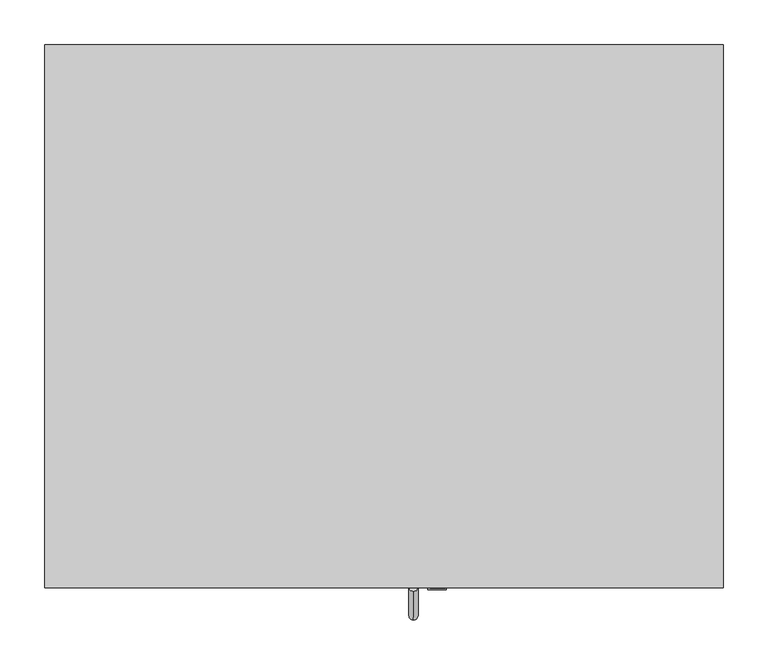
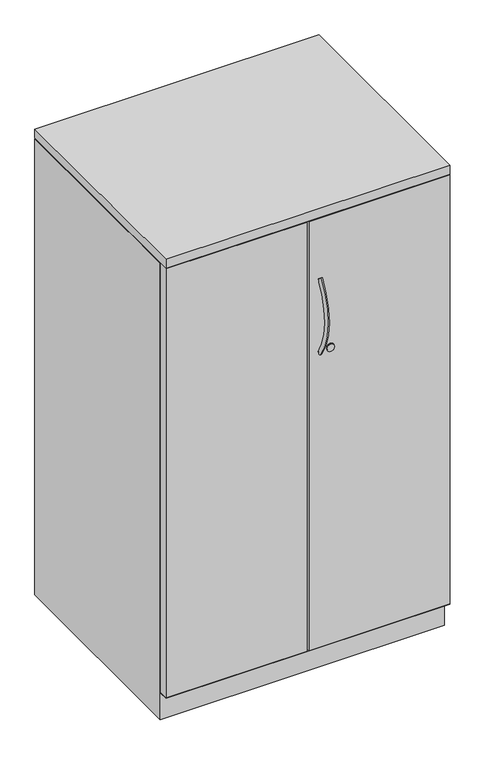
"""IFC4 building model written with IfcOpenShell, lengths in millimetres: furniture geometry, Steelcase - Universal Storage - Cabinet - Storage - 40H-52H - Proud Steel : 52H x 23 1/8D x 30W."""

from ifc_helpers import new_model, si_unit, point, frame, frame_2d, origin, place, context, project, spatial, polyline, circle_curve, ellipse_curve, trimmed, segment, composite_curve, outline, extrude, faceted_brep, source, transform, mapped, element, save
from ifc_brep_helpers import plane_surface, revolved_surface, advanced_brep


def furniture_725afa4a(model_context):
    return source(origin(), model_context, "Body", "SolidModel", [
        extrude(outline(polyline([(762.0, 0.0), (762.0, -609.6), (0.0, -609.6), (0.0, 0.0), (762.0, 0.0)])), frame((0.0, 0.0, 1295.4), z_axis=(0.0, 0.0, 1.0), x_axis=(1.0, 0.0, 0.0)), (0.0, 0.0, 1.0), 25.4),
        extrude(outline(polyline([(0.0, -609.6), (0.0, -584.2008418), (378.46, -584.2008418), (378.46, -609.6), (0.0, -609.6)])), frame((0.0, 0.0, 77.724), z_axis=(0.0, 0.0, 1.0), x_axis=(1.0, 0.0, 0.0)), (0.0, 0.0, 1.0), 1216.152),
        extrude(outline(polyline([(762.0, -584.2008418), (762.0, -609.6), (383.54, -609.6), (383.54, -584.2008418), (762.0, -584.2008418)])), frame((0.0, 0.0, 77.724), z_axis=(0.0, 0.0, 1.0), x_axis=(1.0, 0.0, 0.0)), (0.0, 0.0, 1.0), 1216.152),
        extrude(outline(composite_curve([segment(trimmed(circle_curve(frame_2d((917.702, 440.5418131)), 10.16), [point((917.702, 450.7018131))], [point((917.702, 430.3818131))], False, "CARTESIAN"), True, "CONTINUOUS"), segment(trimmed(circle_curve(frame_2d((917.702, 440.5418131)), 10.16), [point((917.702, 430.3818131))], [point((917.702, 450.7018131))], False, "CARTESIAN"), True, "CONTINUOUS")], self_intersect=False)), frame((0.0, -612.013031, 0.0), z_axis=(0.0, 1.0, 0.0), x_axis=(0.0, 0.0, 1.0)), (0.0, 0.0, 1.0), 2.413031),
        advanced_brep(
        [(414.0783765, -605.0224318, 1119.7196018), (414.0783765, -613.6221633, 1125.3900503), (414.0783765, -602.5951581, 911.9931915), (414.0783765, -611.0600418, 906.1233437)],
        [
            (0, 1, circle_curve(frame((414.0783765, -609.3222976, 1122.5548261), z_axis=(0.0, 0.5504787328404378, 0.83484918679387), x_axis=(0.0, -0.83484918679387, 0.5504787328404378)), 5.1504701)),
            (1, 0, circle_curve(frame((414.0783765, -609.3222976, 1122.5548261), z_axis=(0.0, 0.5504787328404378, 0.83484918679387), x_axis=(0.0, -0.83484918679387, 0.5504787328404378)), 5.1504701)),
            (2, 3, circle_curve(frame((414.0783765, -606.8276, 909.0582676), z_axis=(0.0, 0.5698361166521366, -0.8217583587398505), x_axis=(0.0, -0.8217583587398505, -0.5698361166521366)), 5.1504701)),
            (3, 2, circle_curve(frame((414.0783765, -606.8276, 909.0582676), z_axis=(0.0, 0.5698361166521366, -0.8217583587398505), x_axis=(0.0, -0.8217583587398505, -0.5698361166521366)), 5.1504701)),
            (3, 1, circle_curve(frame((414.0783765, -450.226461, 1017.6509992), z_axis=(-1.0, 0.0, 0.0), x_axis=(0.0, -0.83484918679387, 0.5504787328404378)), 195.7188256)),
            (0, 2, circle_curve(frame((414.0783765, -450.226461, 1017.6509992), z_axis=(1.0, 0.0, 0.0), x_axis=(0.0, -0.83484918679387, 0.5504787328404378)), 185.4178854)),
        ],
        [
            plane_surface(frame((414.0783765, -609.3222976, 1122.5548261), z_axis=(0.0, 0.5504787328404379, 0.83484918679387), x_axis=(-1.0, 0.0, 0.0))),
            plane_surface(frame((414.0783765, -606.8276, 909.0582676), z_axis=(0.0, 0.5698361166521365, -0.8217583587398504), x_axis=(-1.0, 0.0, 0.0))),
            revolved_surface(trimmed(ellipse_curve(frame((414.0783765, -609.3222976, 1122.5548261), z_axis=(0.0, 0.5504787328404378, 0.83484918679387), x_axis=(0.0, -0.83484918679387, 0.5504787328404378)), 5.1504701, 5.1504701), [point((414.0783765, -605.0224318, 1119.7196018))], [point((414.0783765, -613.6221633, 1125.3900503))], True, "CARTESIAN"), (414.0783765, -450.226461, 1017.6509992), (1.0, 0.0, 0.0)),
            revolved_surface(trimmed(ellipse_curve(frame((414.0783765, -609.3222976, 1122.5548261), z_axis=(0.0, 0.5504787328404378, 0.83484918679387), x_axis=(0.0, -0.83484918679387, 0.5504787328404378)), 5.1504701, 5.1504701), [point((414.0783765, -613.6221633, 1125.3900503))], [point((414.0783765, -605.0224318, 1119.7196018))], True, "CARTESIAN"), (414.0783765, -450.226461, 1017.6509992), (1.0, 0.0, 0.0)),
        ],
        [
            (0, [[1, 2]]),
            (1, [[3, 4]]),
            (2, [[5, -1, 6, -4]]),
            (3, [[-6, -2, -5, -3]]),
        ],
    ),
        extrude(outline(composite_curve([segment(trimmed(circle_curve(frame_2d((919.3669832, 440.8109835)), 9.7167829), [point((919.3669832, 450.5277664))], [point((919.3669832, 431.0942006))], False, "CARTESIAN"), True, "CONTINUOUS"), segment(trimmed(circle_curve(frame_2d((919.3669832, 440.8109835)), 9.7167829), [point((919.3669832, 431.0942006))], [point((919.3669832, 450.5277664))], False, "CARTESIAN"), True, "CONTINUOUS")], self_intersect=False)), frame((0.0, -610.2695275, 0.0), z_axis=(0.0, 1.0, 0.0), x_axis=(0.0, 0.0, 1.0)), (0.0, 0.0, 1.0), 0.6695275),
        faceted_brep([(762.0, 0.0, 0.0), (762.0, -582.6768432, 0.0), (0.0, -582.6768432, 0.0), (0.0, 0.0, 0.0), (0.0, 0.0, 1293.876), (762.0, 0.0, 1293.876), (0.0, -582.6768432, 76.2), (0.0, -609.6, 76.2), (0.0, -609.6, 77.724), (0.0, -582.6768432, 77.724), (0.0, -582.6768432, 1293.876), (762.0, -582.6768432, 76.2), (762.0, -582.6768432, 1293.876), (762.0, -582.6768432, 77.724), (762.0, -609.4738418, 77.724), (762.0, -609.6, 76.2), (736.6000242, -25.4000008, 1293.876), (736.6000242, -582.6768432, 1293.876), (25.3999758, -582.6768432, 1293.876), (25.3999758, -25.4000008, 1293.876), (736.6000242, -25.4000008, 77.724), (736.6000242, -582.6768432, 77.724), (25.3999758, -582.6768432, 77.724), (25.3999758, -25.4000008, 77.724), (4.6981334, -584.2008418, 77.724), (736.6000242, -584.2008418, 77.724)], [[[0, 1, 2, 3]], [[0, 3, 4, 5]], [[4, 3, 2, 6, 7, 8, 9, 10]], [[2, 1, 11, 6]], [[1, 0, 5, 12, 13, 14, 15, 11]], [[16, 17, 12, 5, 4, 10, 18, 19]], [[17, 16, 20, 21]], [[12, 17, 21, 13]], [[18, 10, 9, 22]], [[19, 18, 22, 23]], [[16, 19, 23, 20]], [[8, 24, 25, 14, 13, 21, 20, 23, 22, 9]], [[15, 7, 6, 11]], [[24, 8, 7]], [[25, 24, 7, 15]], [[14, 25, 15]]]),
    ])


if __name__ == "__main__":
    model = new_model("IFC4")
    model_context = context("Model", 3, world=origin())
    ifc_project = project(units=[si_unit("LENGTHUNIT", "METRE", prefix="MILLI")], contexts=[model_context])
    site = spatial("IfcSite", under=ifc_project)
    building = spatial("IfcBuilding", under=site)
    placement = place(None, origin())
    furniture_shape = furniture_725afa4a(model_context)
    element("IfcFurniture", 1, ObjectType="Steelcase - Universal Storage - Cabinet - Storage - 40H-52H - Proud Steel : 52H x 23 1/8D x 30W", at=placement, inside=building, context=model_context, shape_type="MappedRepresentation", body=[
        mapped(furniture_shape, transform((0.0, 0.0, 0.0), x_axis=(1.0, 0.0, 0.0), y_axis=(0.0, 1.0, 0.0), z_axis=(0.0, 0.0, 1.0))),
    ])
    save(model, "model.ifc")
